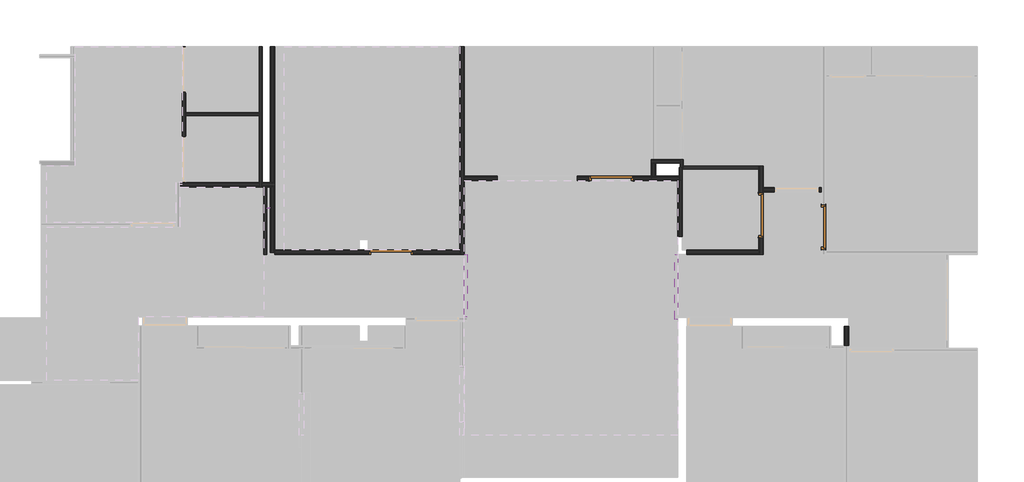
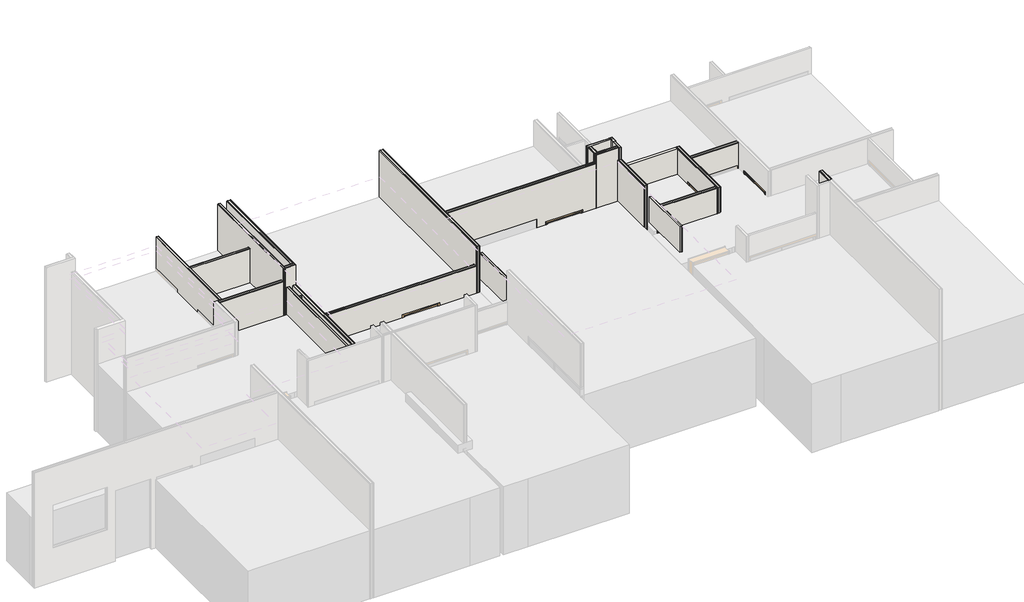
# One storey, part 3 of 6: 25 walls, 4 doors.
"""IFC4 building model written with IfcOpenShell, lengths in millimetres."""

from ifc_helpers import new_model, si_unit, frame, origin, origin_with_axes, place, context, project, spatial, polyline, outline, extrude, transform, mapped, element, save
from components import door_922e83f1, door_a5923646

model = new_model("IFC4")

# Units and contexts
model_context = context("Model", 3, world=origin())
ifc_project = project(units=[si_unit("LENGTHUNIT", "METRE", prefix="MILLI")], contexts=[model_context])

# Site, building, storey
site = spatial("IfcSite", under=ifc_project)
building = spatial("IfcBuilding", under=site)
storey = spatial("IfcBuildingStorey", under=building, Name="0 Mairie RDC 0.00", Elevation=0.0)

# Doors
placement = place(None, origin())
door_shape = door_922e83f1(model_context)
element("IfcDoor", 1, ObjectType="Portes - Int. Simple - PP (0.89m x 2.04m) (1)", at=placement, inside=storey, context=model_context, shape_type="MappedRepresentation", body=[
    mapped(door_shape, transform((-1617.7552543, -6588.7824715, 0.0), x_axis=(0.0, 1.0, 0.0), y_axis=(-1.0, 0.0, 0.0), z_axis=(0.0, 0.0, 1.0))),
])
element("IfcDoor", 2, ObjectType="Portes - Int. Simple - PP (0.89m x 2.04m) (1)", at=placement, inside=storey, context=model_context, shape_type="MappedRepresentation", body=[
    mapped(door_shape, transform((-5847.4166831, -4878.2154166, 0.0), x_axis=(-1.0, 0.0, 0.0), y_axis=(0.0, -1.0, 0.0), z_axis=(0.0, 0.0, 1.0))),
])
door_2_shape = door_a5923646(model_context)
element("IfcDoor", 3, ObjectType="Portes - Int. Simple - PP (0.89m x 2.04m) (2)", at=placement, inside=storey, context=model_context, shape_type="MappedRepresentation", body=[
    mapped(door_2_shape, transform((-3018.9176162, -6252.6533676, 0.0), x_axis=(0.0, 1.0, 0.0), y_axis=(-1.0, 0.0, 0.0), z_axis=(0.0, 0.0, 1.0))),
])
element("IfcDoor", 4, ObjectType="Portes - Int. Simple - PP (0.89m x 2.04m) (2)", at=placement, inside=storey, context=model_context, shape_type="MappedRepresentation", body=[
    mapped(door_2_shape, transform((-10848.5461708, -6532.5340392, 0.0), x_axis=(-1.0, 0.0, 0.0), y_axis=(0.0, -1.0, 0.0), z_axis=(0.0, 0.0, 1.0))),
])

# Walls
element("IfcWall", 5, ObjectType="Murs - Mur de base - A cloison placostil 98 sèche", at=placement, inside=storey, context=model_context, shape_type="SweptSolid", body=[
    extrude(outline(polyline([(-9808.4471465, -6632.5340392), (-9808.4471465, -1972.7637486), (-9795.9471465, -1972.7637486), (-9795.9471465, -6632.5340392), (-9808.4471465, -6632.5340392)])), origin_with_axes(), (0.0, 0.0, 1.0), 3370.0),
    extrude(outline(polyline([(-9795.9471465, -6632.5340392), (-9795.9471465, -1972.7637486), (-9783.4471465, -1972.7637486), (-9783.4471465, -6632.5340392), (-9795.9471465, -6632.5340392)])), origin_with_axes(), (0.0, 0.0, 1.0), 3370.0),
    extrude(outline(polyline([(-9783.4471465, -6632.5340392), (-9783.4471465, -1972.7637486), (-9733.4471465, -1972.7637486), (-9733.4471465, -6632.5340392), (-9783.4471465, -6632.5340392)])), origin_with_axes(), (0.0, 0.0, 1.0), 3370.0),
    extrude(outline(polyline([(-9733.4471465, -6632.5340392), (-9733.4471465, -1972.7637486), (-9720.9471465, -1972.7637486), (-9720.9471465, -6632.5340392), (-9733.4471465, -6632.5340392)])), origin_with_axes(), (0.0, 0.0, 1.0), 3370.0),
    extrude(outline(polyline([(-9720.9471465, -6632.5340392), (-9720.9471465, -1972.7637486), (-9708.4471465, -1972.7637486), (-9708.4471465, -6632.5340392), (-9720.9471465, -6632.5340392)])), origin_with_axes(), (0.0, 0.0, 1.0), 3370.0),
])
element("IfcWall", 6, ObjectType="Murs - Mur de base - A cloison placostil 72 sèche", at=placement, inside=storey, context=model_context, shape_type="SweptSolid", body=[
    extrude(outline(polyline([(-5527.496701, -4510.805772), (-4877.4967035, -4510.805772), (-4877.4967035, -4520.805772), (-5527.496701, -4520.805772), (-5527.496701, -4510.805772)])), origin_with_axes(), (0.0, 0.0, 1.0), 3550.0),
    extrude(outline(polyline([(-5527.496701, -4520.805772), (-4877.4967035, -4520.805772), (-4877.4967035, -4570.805772), (-5527.496701, -4570.805772), (-5527.496701, -4520.805772)])), origin_with_axes(), (0.0, 0.0, 1.0), 3550.0),
    extrude(outline(polyline([(-5527.496701, -4570.805772), (-4877.4967035, -4570.805772), (-4877.4967035, -4580.805772), (-5527.496701, -4580.805772), (-5527.496701, -4570.805772)])), origin_with_axes(), (0.0, 0.0, 1.0), 3550.0),
])
element("IfcWall", 7, ObjectType="Murs - Mur de base - A cloison placostil 72 sèche", at=placement, inside=storey, context=model_context, shape_type="SweptSolid", body=[
    extrude(outline(polyline([(-3118.9176162, -4722.7868397), (-4827.496702, -4722.7868397), (-4827.496702, -4687.7868397), (-4807.4967035, -4687.7868397), (-4807.4967035, -4652.7868397), (-3118.9176162, -4652.7868397), (-3118.9176162, -4722.7868397)])), origin_with_axes(), (0.0, 0.0, 1.0), 2750.0),
])
element("IfcWall", 8, ObjectType="Murs - Mur de base - A cloison placostil 98 sèche", at=placement, inside=storey, context=model_context, shape_type="SweptSolid", body=[
    extrude(outline(polyline([(-6633.7824715, 2750.0), (-4652.7868397, 2750.0), (-4652.7868397, 0.0), (-5252.6533676, 0.0), (-5252.6533676, 2075.0), (-6252.6533676, 2075.0), (-6252.6533676, 0.0), (-6633.7824715, 0.0), (-6633.7824715, 2750.0)])), frame((-3118.9176162, 0.0, 0.0), z_axis=(1.0, 0.0, 0.0), x_axis=(0.0, 1.0, 0.0)), (0.0, 0.0, 1.0), 12.5),
    extrude(outline(polyline([(-6633.7824715, 2750.0), (-4652.7868397, 2750.0), (-4652.7868397, 0.0), (-5252.6533676, 0.0), (-5252.6533676, 2075.0), (-6252.6533676, 2075.0), (-6252.6533676, 0.0), (-6633.7824715, 0.0), (-6633.7824715, 2750.0)])), frame((-3106.4176162, 0.0, 0.0), z_axis=(1.0, 0.0, 0.0), x_axis=(0.0, 1.0, 0.0)), (0.0, 0.0, 1.0), 12.5),
    extrude(outline(polyline([(-6633.7824715, 2750.0), (-4652.7868397, 2750.0), (-4652.7868397, 0.0), (-5252.6533676, 0.0), (-5252.6533676, 2075.0), (-6252.6533676, 2075.0), (-6252.6533676, 0.0), (-6633.7824715, 0.0), (-6633.7824715, 2750.0)])), frame((-3093.9176162, 0.0, 0.0), z_axis=(1.0, 0.0, 0.0), x_axis=(0.0, 1.0, 0.0)), (0.0, 0.0, 1.0), 50.0),
    extrude(outline(polyline([(-6633.7824715, 2750.0), (-4652.7868397, 2750.0), (-4652.7868397, 0.0), (-5252.6533676, 0.0), (-5252.6533676, 2075.0), (-6252.6533676, 2075.0), (-6252.6533676, 0.0), (-6633.7824715, 0.0), (-6633.7824715, 2750.0)])), frame((-3043.9176162, 0.0, 0.0), z_axis=(1.0, 0.0, 0.0), x_axis=(0.0, 1.0, 0.0)), (0.0, 0.0, 1.0), 12.5),
    extrude(outline(polyline([(-6633.7824715, 2750.0), (-4652.7868397, 2750.0), (-4652.7868397, 0.0), (-5252.6533676, 0.0), (-5252.6533676, 2075.0), (-6252.6533676, 2075.0), (-6252.6533676, 0.0), (-6633.7824715, 0.0), (-6633.7824715, 2750.0)])), frame((-3031.4176162, 0.0, 0.0), z_axis=(1.0, 0.0, 0.0), x_axis=(0.0, 1.0, 0.0)), (0.0, 0.0, 1.0), 12.5),
])
element("IfcWall", 9, ObjectType="Murs - Mur de base - A cloison placostil 98 sèche", at=placement, inside=storey, context=model_context, shape_type="SweptSolid", body=[
    extrude(outline(polyline([(-4726.8279653, -6633.7824715), (-4726.8279653, -6621.2824715), (-3118.9176162, -6621.2824715), (-3118.9176162, -6633.7824715), (-4726.8279653, -6633.7824715)])), origin_with_axes(), (0.0, 0.0, 1.0), 2750.0),
    extrude(outline(polyline([(-4726.8279653, -6621.2824715), (-4726.8279653, -6608.7824715), (-3118.9176162, -6608.7824715), (-3118.9176162, -6621.2824715), (-4726.8279653, -6621.2824715)])), origin_with_axes(), (0.0, 0.0, 1.0), 2750.0),
    extrude(outline(polyline([(-4726.8279653, -6608.7824715), (-4726.8279653, -6558.7824715), (-3118.9176162, -6558.7824715), (-3118.9176162, -6608.7824715), (-4726.8279653, -6608.7824715)])), origin_with_axes(), (0.0, 0.0, 1.0), 2750.0),
    extrude(outline(polyline([(-4726.8279653, -6558.7824715), (-4726.8279653, -6546.2824715), (-3118.9176162, -6546.2824715), (-3118.9176162, -6558.7824715), (-4726.8279653, -6558.7824715)])), origin_with_axes(), (0.0, 0.0, 1.0), 2750.0),
    extrude(outline(polyline([(-4726.8279653, -6546.2824715), (-4726.8279653, -6533.7824715), (-3118.9176162, -6533.7824715), (-3118.9176162, -6546.2824715), (-4726.8279653, -6546.2824715)])), origin_with_axes(), (0.0, 0.0, 1.0), 2750.0),
])
element("IfcWall", 10, ObjectType="Murs - Mur de base - A cloison placostil 98 sèche", at=placement, inside=storey, context=model_context, shape_type="SweptSolid", body=[
    extrude(outline(polyline([(2750.0, -1717.7552543), (2750.0, -3018.9176162), (0.0, -3018.9176162), (0.0, -2767.7552543), (2075.0, -2767.7552543), (2075.0, -1767.7552543), (0.0, -1767.7552543), (0.0, -1717.7552543), (2750.0, -1717.7552543)])), frame((0.0, -5237.6533676, 0.0), z_axis=(0.0, 1.0, 0.0), x_axis=(0.0, 0.0, 1.0)), (0.0, 0.0, 1.0), 12.5),
    extrude(outline(polyline([(2750.0, -1717.7552543), (2750.0, -3018.9176162), (0.0, -3018.9176162), (0.0, -2767.7552543), (2075.0, -2767.7552543), (2075.0, -1767.7552543), (0.0, -1767.7552543), (0.0, -1717.7552543), (2750.0, -1717.7552543)])), frame((0.0, -5225.1533676, 0.0), z_axis=(0.0, 1.0, 0.0), x_axis=(0.0, 0.0, 1.0)), (0.0, 0.0, 1.0), 12.5),
    extrude(outline(polyline([(2750.0, -1717.7552543), (2750.0, -3018.9176162), (0.0, -3018.9176162), (0.0, -2767.7552543), (2075.0, -2767.7552543), (2075.0, -1767.7552543), (0.0, -1767.7552543), (0.0, -1717.7552543), (2750.0, -1717.7552543)])), frame((0.0, -5212.6533676, 0.0), z_axis=(0.0, 1.0, 0.0), x_axis=(0.0, 0.0, 1.0)), (0.0, 0.0, 1.0), 50.0),
    extrude(outline(polyline([(2750.0, -1717.7552543), (2750.0, -3018.9176162), (0.0, -3018.9176162), (0.0, -2767.7552543), (2075.0, -2767.7552543), (2075.0, -1767.7552543), (0.0, -1767.7552543), (0.0, -1717.7552543), (2750.0, -1717.7552543)])), frame((0.0, -5162.6533676, 0.0), z_axis=(0.0, 1.0, 0.0), x_axis=(0.0, 0.0, 1.0)), (0.0, 0.0, 1.0), 12.5),
    extrude(outline(polyline([(2750.0, -1717.7552543), (2750.0, -3018.9176162), (0.0, -3018.9176162), (0.0, -2767.7552543), (2075.0, -2767.7552543), (2075.0, -1767.7552543), (0.0, -1767.7552543), (0.0, -1717.7552543), (2750.0, -1717.7552543)])), frame((0.0, -5150.1533676, 0.0), z_axis=(0.0, 1.0, 0.0), x_axis=(0.0, 0.0, 1.0)), (0.0, 0.0, 1.0), 12.5),
])
element("IfcWall", 11, ObjectType="Murs - Mur de base - A cloison placostil 98 sèche", at=placement, inside=storey, context=model_context, shape_type="SweptSolid", body=[
    extrude(outline(polyline([(2800.0, -9808.4471465), (2800.0, -13946.7760862), (0.0, -13946.7760862), (0.0, -11848.5461708), (2075.0, -11848.5461708), (2075.0, -10848.5461708), (0.0, -10848.5461708), (0.0, -9808.4471465), (2800.0, -9808.4471465)])), frame((0.0, -6632.5340392, 0.0), z_axis=(0.0, 1.0, 0.0), x_axis=(0.0, 0.0, 1.0)), (0.0, 0.0, 1.0), 12.5),
    extrude(outline(polyline([(2800.0, -9808.4471465), (2800.0, -13946.7760862), (0.0, -13946.7760862), (0.0, -11848.5461708), (2075.0, -11848.5461708), (2075.0, -10848.5461708), (0.0, -10848.5461708), (0.0, -9808.4471465), (2800.0, -9808.4471465)])), frame((0.0, -6620.0340392, 0.0), z_axis=(0.0, 1.0, 0.0), x_axis=(0.0, 0.0, 1.0)), (0.0, 0.0, 1.0), 12.5),
    extrude(outline(polyline([(2800.0, -9808.4471465), (2800.0, -13946.7760862), (0.0, -13946.7760862), (0.0, -11848.5461708), (2075.0, -11848.5461708), (2075.0, -10848.5461708), (0.0, -10848.5461708), (0.0, -9808.4471465), (2800.0, -9808.4471465)])), frame((0.0, -6607.5340392, 0.0), z_axis=(0.0, 1.0, 0.0), x_axis=(0.0, 0.0, 1.0)), (0.0, 0.0, 1.0), 50.0),
    extrude(outline(polyline([(2800.0, -9808.4471465), (2800.0, -13946.7760862), (0.0, -13946.7760862), (0.0, -11848.5461708), (2075.0, -11848.5461708), (2075.0, -10848.5461708), (0.0, -10848.5461708), (0.0, -9808.4471465), (2800.0, -9808.4471465)])), frame((0.0, -6557.5340392, 0.0), z_axis=(0.0, 1.0, 0.0), x_axis=(0.0, 0.0, 1.0)), (0.0, 0.0, 1.0), 12.5),
    extrude(outline(polyline([(2800.0, -9808.4471465), (2800.0, -13946.7760862), (0.0, -13946.7760862), (0.0, -11848.5461708), (2075.0, -11848.5461708), (2075.0, -10848.5461708), (0.0, -10848.5461708), (0.0, -9808.4471465), (2800.0, -9808.4471465)])), frame((0.0, -6545.0340392, 0.0), z_axis=(0.0, 1.0, 0.0), x_axis=(0.0, 0.0, 1.0)), (0.0, 0.0, 1.0), 12.5),
])
element("IfcWall", 12, ObjectType="Murs - Mur de base - A cloison placostil 98 sèche", at=placement, inside=storey, context=model_context, shape_type="SweptSolid", body=[
    extrude(outline(polyline([(3300.0, -5527.496701), (3300.0, -9708.4471465), (0.0, -9708.4471465), (0.0, -6917.4166831), (2075.0, -6917.4166831), (2075.0, -5917.4166831), (0.0, -5917.4166831), (0.0, -5527.496701), (3300.0, -5527.496701)]), holes=[polyline([(2250.0, -7174.496701), (1000.0, -7174.496701), (1000.0, -8974.496701), (2250.0, -8974.496701), (2250.0, -7174.496701)])]), frame((0.0, -4978.2154166, 0.0), z_axis=(0.0, 1.0, 0.0), x_axis=(0.0, 0.0, 1.0)), (0.0, 0.0, 1.0), 12.5),
    extrude(outline(polyline([(3300.0, -5527.496701), (3300.0, -9708.4471465), (0.0, -9708.4471465), (0.0, -6917.4166831), (2075.0, -6917.4166831), (2075.0, -5917.4166831), (0.0, -5917.4166831), (0.0, -5527.496701), (3300.0, -5527.496701)]), holes=[polyline([(2250.0, -7174.496701), (1000.0, -7174.496701), (1000.0, -8974.496701), (2250.0, -8974.496701), (2250.0, -7174.496701)])]), frame((0.0, -4965.7154166, 0.0), z_axis=(0.0, 1.0, 0.0), x_axis=(0.0, 0.0, 1.0)), (0.0, 0.0, 1.0), 12.5),
    extrude(outline(polyline([(3300.0, -5527.496701), (3300.0, -9708.4471465), (0.0, -9708.4471465), (0.0, -6917.4166831), (2075.0, -6917.4166831), (2075.0, -5917.4166831), (0.0, -5917.4166831), (0.0, -5527.496701), (3300.0, -5527.496701)]), holes=[polyline([(2250.0, -7174.496701), (1000.0, -7174.496701), (1000.0, -8974.496701), (2250.0, -8974.496701), (2250.0, -7174.496701)])]), frame((0.0, -4953.2154166, 0.0), z_axis=(0.0, 1.0, 0.0), x_axis=(0.0, 0.0, 1.0)), (0.0, 0.0, 1.0), 50.0),
    extrude(outline(polyline([(3300.0, -5527.496701), (3300.0, -9708.4471465), (0.0, -9708.4471465), (0.0, -6917.4166831), (2075.0, -6917.4166831), (2075.0, -5917.4166831), (0.0, -5917.4166831), (0.0, -5527.496701), (3300.0, -5527.496701)]), holes=[polyline([(2250.0, -7174.496701), (1000.0, -7174.496701), (1000.0, -8974.496701), (2250.0, -8974.496701), (2250.0, -7174.496701)])]), frame((0.0, -4903.2154166, 0.0), z_axis=(0.0, 1.0, 0.0), x_axis=(0.0, 0.0, 1.0)), (0.0, 0.0, 1.0), 12.5),
    extrude(outline(polyline([(3300.0, -5527.496701), (3300.0, -9708.4471465), (0.0, -9708.4471465), (0.0, -6917.4166831), (2075.0, -6917.4166831), (2075.0, -5917.4166831), (0.0, -5917.4166831), (0.0, -5527.496701), (3300.0, -5527.496701)]), holes=[polyline([(2250.0, -7174.496701), (1000.0, -7174.496701), (1000.0, -8974.496701), (2250.0, -8974.496701), (2250.0, -7174.496701)])]), frame((0.0, -4890.7154166, 0.0), z_axis=(0.0, 1.0, 0.0), x_axis=(0.0, 0.0, 1.0)), (0.0, 0.0, 1.0), 12.5),
])
element("IfcWall", 13, ObjectType="Murs - Mur de base - A cloison placostil 72 sèche", at=placement, inside=storey, context=model_context, shape_type="SweptSolid", body=[
    extrude(outline(polyline([(-4897.496702, -4978.2154166), (-4897.496702, -4687.7868397), (-4887.496702, -4687.7868397), (-4887.496702, -4978.2154166), (-4897.496702, -4978.2154166)])), origin_with_axes(), (0.0, 0.0, 1.0), 3550.0),
    extrude(outline(polyline([(-4887.496702, -4978.2154166), (-4887.496702, -4687.7868397), (-4837.496702, -4687.7868397), (-4837.496702, -4978.2154166), (-4887.496702, -4978.2154166)])), origin_with_axes(), (0.0, 0.0, 1.0), 3550.0),
    extrude(outline(polyline([(-4837.496702, -4978.2154166), (-4837.496702, -4687.7868397), (-4827.496702, -4687.7868397), (-4827.496702, -4978.2154166), (-4837.496702, -4978.2154166)])), origin_with_axes(), (0.0, 0.0, 1.0), 3550.0),
])
element("IfcWall", 14, ObjectType="Murs - Mur de base - A cloison placostil 98 sèche", at=placement, inside=storey, context=model_context, shape_type="SweptSolid", body=[
    extrude(outline(polyline([(-4927.496702, -6233.7824715), (-4927.496702, -4978.2154166), (-4914.996702, -4978.2154166), (-4914.996702, -6233.7824715), (-4927.496702, -6233.7824715)])), origin_with_axes(), (0.0, 0.0, 1.0), 3200.0),
    extrude(outline(polyline([(-4914.996702, -6233.7824715), (-4914.996702, -4978.2154166), (-4902.496702, -4978.2154166), (-4902.496702, -6233.7824715), (-4914.996702, -6233.7824715)])), origin_with_axes(), (0.0, 0.0, 1.0), 3200.0),
    extrude(outline(polyline([(-4902.496702, -6233.7824715), (-4902.496702, -4978.2154166), (-4852.496702, -4978.2154166), (-4852.496702, -6233.7824715), (-4902.496702, -6233.7824715)])), origin_with_axes(), (0.0, 0.0, 1.0), 3200.0),
    extrude(outline(polyline([(-4852.496702, -6233.7824715), (-4852.496702, -4978.2154166), (-4839.996702, -4978.2154166), (-4839.996702, -6233.7824715), (-4852.496702, -6233.7824715)])), origin_with_axes(), (0.0, 0.0, 1.0), 3200.0),
    extrude(outline(polyline([(-4839.996702, -6233.7824715), (-4839.996702, -4978.2154166), (-4827.496702, -4978.2154166), (-4827.496702, -6233.7824715), (-4839.996702, -6233.7824715)])), origin_with_axes(), (0.0, 0.0, 1.0), 3200.0),
])
element("IfcWall", 15, ObjectType="Murs - Mur de base - A cloison placostil 72 sèche", at=placement, inside=storey, context=model_context, shape_type="SweptSolid", body=[
    extrude(outline(polyline([(-9638.4471465, -8032.7867091), (-9648.4471465, -8032.7867091), (-9648.4471465, -6633.2685444), (-9638.4471465, -6633.2685444), (-9638.4471465, -8032.7867091)])), frame((0.0, 0.0, 2400.0), z_axis=(0.0, 0.0, 1.0), x_axis=(1.0, 0.0, 0.0)), (0.0, 0.0, 1.0), 750.0),
    extrude(outline(polyline([(-9648.4471465, -8032.7867091), (-9698.4471465, -8032.7867091), (-9698.4471465, -6633.2685444), (-9648.4471465, -6633.2685444), (-9648.4471465, -8032.7867091)])), frame((0.0, 0.0, 2400.0), z_axis=(0.0, 0.0, 1.0), x_axis=(1.0, 0.0, 0.0)), (0.0, 0.0, 1.0), 750.0),
    extrude(outline(polyline([(-9698.4471465, -8032.7867091), (-9708.4471465, -8032.7867091), (-9708.4471465, -6633.2685444), (-9698.4471465, -6633.2685444), (-9698.4471465, -8032.7867091)])), frame((0.0, 0.0, 2400.0), z_axis=(0.0, 0.0, 1.0), x_axis=(1.0, 0.0, 0.0)), (0.0, 0.0, 1.0), 750.0),
])
element("IfcWall", 16, ObjectType="Murs - Mur de base - A cloison placostil 72 sèche", at=placement, inside=storey, context=model_context, shape_type="SweptSolid", body=[
    extrude(outline(polyline([(-4927.496702, -8082.7867091), (-4937.496702, -8082.7867091), (-4937.496702, -6633.2685444), (-4927.496702, -6633.2685444), (-4927.496702, -8082.7867091)])), frame((0.0, 0.0, 2400.0), z_axis=(0.0, 0.0, 1.0), x_axis=(1.0, 0.0, 0.0)), (0.0, 0.0, 1.0), 750.0),
    extrude(outline(polyline([(-4937.496702, -8082.7867091), (-4987.496702, -8082.7867091), (-4987.496702, -6633.2685444), (-4937.496702, -6633.2685444), (-4937.496702, -8082.7867091)])), frame((0.0, 0.0, 2400.0), z_axis=(0.0, 0.0, 1.0), x_axis=(1.0, 0.0, 0.0)), (0.0, 0.0, 1.0), 750.0),
    extrude(outline(polyline([(-4987.496702, -8082.7867091), (-4997.496702, -8082.7867091), (-4997.496702, -6633.2685444), (-4987.496702, -6633.2685444), (-4987.496702, -8082.7867091)])), frame((0.0, 0.0, 2400.0), z_axis=(0.0, 0.0, 1.0), x_axis=(1.0, 0.0, 0.0)), (0.0, 0.0, 1.0), 750.0),
])
element("IfcWall", 17, ObjectType="Murs - Mur de base - A cloison placostil 98 sèche", at=placement, inside=storey, context=model_context, shape_type="SweptSolid", body=[
    extrude(outline(polyline([(-1206.3922233, -8681.7570094), (-1206.3922233, -8238.2685444), (-1193.8922233, -8238.2685444), (-1193.8922233, -8681.7570094), (-1206.3922233, -8681.7570094)])), origin_with_axes(), (0.0, 0.0, 1.0), 3550.0),
    extrude(outline(polyline([(-1193.8922233, -8681.7570094), (-1193.8922233, -8238.2685444), (-1181.3922233, -8238.2685444), (-1181.3922233, -8681.7570094), (-1193.8922233, -8681.7570094)])), origin_with_axes(), (0.0, 0.0, 1.0), 3550.0),
    extrude(outline(polyline([(-1181.3922233, -8681.7570094), (-1181.3922233, -8238.2685444), (-1131.3922233, -8238.2685444), (-1131.3922233, -8681.7570094), (-1181.3922233, -8681.7570094)])), origin_with_axes(), (0.0, 0.0, 1.0), 3550.0),
    extrude(outline(polyline([(-1131.3922233, -8681.7570094), (-1131.3922233, -8238.2685444), (-1118.8922233, -8238.2685444), (-1118.8922233, -8681.7570094), (-1131.3922233, -8681.7570094)])), origin_with_axes(), (0.0, 0.0, 1.0), 3550.0),
    extrude(outline(polyline([(-1118.8922233, -8681.7570094), (-1118.8922233, -8238.2685444), (-1106.3922233, -8238.2685444), (-1106.3922233, -8681.7570094), (-1118.8922233, -8681.7570094)])), origin_with_axes(), (0.0, 0.0, 1.0), 3550.0),
])
element("IfcWall", 18, ObjectType="Murs - Mur de base - A cloison placostil 98 sèche", at=placement, inside=storey, context=model_context, shape_type="SweptSolid", body=[
    extrude(outline(polyline([(-14296.7760862, -5119.9219201), (-16066.6269046, -5119.9219201), (-16066.6269046, -5107.4219201), (-14296.7760862, -5107.4219201), (-14296.7760862, -5119.9219201)])), origin_with_axes(), (0.0, 0.0, 1.0), 3000.0),
    extrude(outline(polyline([(-14296.7760862, -5107.4219201), (-16066.6269046, -5107.4219201), (-16066.6269046, -5094.9219201), (-14296.7760862, -5094.9219201), (-14296.7760862, -5107.4219201)])), origin_with_axes(), (0.0, 0.0, 1.0), 3000.0),
    extrude(outline(polyline([(-14296.7760862, -5094.9219201), (-16066.6269046, -5094.9219201), (-16066.6269046, -5044.9219201), (-14296.7760862, -5044.9219201), (-14296.7760862, -5094.9219201)])), origin_with_axes(), (0.0, 0.0, 1.0), 3000.0),
    extrude(outline(polyline([(-14296.7760862, -5044.9219201), (-16066.6269046, -5044.9219201), (-16066.6269046, -5032.4219201), (-14296.7760862, -5032.4219201), (-14296.7760862, -5044.9219201)])), origin_with_axes(), (0.0, 0.0, 1.0), 3000.0),
    extrude(outline(polyline([(-14296.7760862, -5032.4219201), (-16066.6269046, -5032.4219201), (-16066.6269046, -5019.9219201), (-14296.7760862, -5019.9219201), (-14296.7760862, -5032.4219201)])), origin_with_axes(), (0.0, 0.0, 1.0), 3000.0),
])
element("IfcWall", 19, ObjectType="Murs - Mur de base - A cloison placostil 72 sèche", at=placement, inside=storey, context=model_context, shape_type="SweptSolid", body=[
    extrude(outline(polyline([(-14226.7760862, -1972.7637486), (-14226.7760862, -5119.9219201), (-14236.7760862, -5119.9219201), (-14236.7760862, -1972.7637486), (-14226.7760862, -1972.7637486)])), origin_with_axes(), (0.0, 0.0, 1.0), 3370.0),
    extrude(outline(polyline([(-14236.7760862, -1972.7637486), (-14236.7760862, -5119.9219201), (-14286.7760862, -5119.9219201), (-14286.7760862, -1972.7637486), (-14236.7760862, -1972.7637486)])), origin_with_axes(), (0.0, 0.0, 1.0), 3370.0),
    extrude(outline(polyline([(-14286.7760862, -1972.7637486), (-14286.7760862, -5119.9219201), (-14296.7760862, -5119.9219201), (-14296.7760862, -1972.7637486), (-14286.7760862, -1972.7637486)])), origin_with_axes(), (0.0, 0.0, 1.0), 3370.0),
])
element("IfcWall", 20, ObjectType="Murs - Mur de base - A cloison placostil 72 sèche", at=placement, inside=storey, context=model_context, shape_type="SweptSolid", body=[
    extrude(outline(polyline([(-5019.9219201, 3000.0), (-1972.7637486, 3000.0), (-1972.7637486, 0.0), (-1987.7637486, 0.0), (-1987.7637486, 2075.0), (-2987.7637486, 2075.0), (-2987.7637486, 0.0), (-4004.9219201, 0.0), (-4004.9219201, 2075.0), (-5004.9219201, 2075.0), (-5004.9219201, 0.0), (-5019.9219201, 0.0), (-5019.9219201, 3000.0)])), frame((-15955.9503686, 0.0, 0.0), z_axis=(1.0, 0.0, 0.0), x_axis=(0.0, 1.0, 0.0)), (0.0, 0.0, 1.0), 10.0),
    extrude(outline(polyline([(-5019.9219201, 3000.0), (-1972.7637486, 3000.0), (-1972.7637486, 0.0), (-1987.7637486, 0.0), (-1987.7637486, 2075.0), (-2987.7637486, 2075.0), (-2987.7637486, 0.0), (-4004.9219201, 0.0), (-4004.9219201, 2075.0), (-5004.9219201, 2075.0), (-5004.9219201, 0.0), (-5019.9219201, 0.0), (-5019.9219201, 3000.0)])), frame((-16005.9503686, 0.0, 0.0), z_axis=(1.0, 0.0, 0.0), x_axis=(0.0, 1.0, 0.0)), (0.0, 0.0, 1.0), 50.0),
    extrude(outline(polyline([(-5019.9219201, 3000.0), (-1972.7637486, 3000.0), (-1972.7637486, 0.0), (-1987.7637486, 0.0), (-1987.7637486, 2075.0), (-2987.7637486, 2075.0), (-2987.7637486, 0.0), (-4004.9219201, 0.0), (-4004.9219201, 2075.0), (-5004.9219201, 2075.0), (-5004.9219201, 0.0), (-5019.9219201, 0.0), (-5019.9219201, 3000.0)])), frame((-16015.9503686, 0.0, 0.0), z_axis=(1.0, 0.0, 0.0), x_axis=(0.0, 1.0, 0.0)), (0.0, 0.0, 1.0), 10.0),
])
element("IfcWall", 21, ObjectType="Murs - Mur de base - A cloison placostil 72 sèche", at=placement, inside=storey, context=model_context, shape_type="SweptSolid", body=[
    extrude(outline(polyline([(-15945.9503686, -3451.3428344), (-14296.7760862, -3451.3428344), (-14296.7760862, -3461.3428344), (-15945.9503686, -3461.3428344), (-15945.9503686, -3451.3428344)])), origin_with_axes(), (0.0, 0.0, 1.0), 3000.0),
    extrude(outline(polyline([(-15945.9503686, -3461.3428344), (-14296.7760862, -3461.3428344), (-14296.7760862, -3511.3428344), (-15945.9503686, -3511.3428344), (-15945.9503686, -3461.3428344)])), origin_with_axes(), (0.0, 0.0, 1.0), 3000.0),
    extrude(outline(polyline([(-15945.9503686, -3511.3428344), (-14296.7760862, -3511.3428344), (-14296.7760862, -3521.3428344), (-15945.9503686, -3521.3428344), (-15945.9503686, -3511.3428344)])), origin_with_axes(), (0.0, 0.0, 1.0), 3000.0),
])
element("IfcWall", 22, ObjectType="Murs - Mur de base - A cloison placostil 98 sèche", at=placement, inside=storey, context=model_context, shape_type="SweptSolid", body=[
    extrude(outline(polyline([(-5527.496701, -4878.2154166), (-5527.496701, -4580.805772), (-5514.996701, -4580.805772), (-5514.996701, -4878.2154166), (-5527.496701, -4878.2154166)])), origin_with_axes(), (0.0, 0.0, 1.0), 3550.0),
    extrude(outline(polyline([(-5514.996701, -4878.2154166), (-5514.996701, -4580.805772), (-5502.496701, -4580.805772), (-5502.496701, -4878.2154166), (-5514.996701, -4878.2154166)])), origin_with_axes(), (0.0, 0.0, 1.0), 3550.0),
    extrude(outline(polyline([(-5502.496701, -4878.2154166), (-5502.496701, -4580.805772), (-5452.496701, -4580.805772), (-5452.496701, -4878.2154166), (-5502.496701, -4878.2154166)])), origin_with_axes(), (0.0, 0.0, 1.0), 3550.0),
    extrude(outline(polyline([(-5452.496701, -4878.2154166), (-5452.496701, -4580.805772), (-5439.996701, -4580.805772), (-5439.996701, -4878.2154166), (-5452.496701, -4878.2154166)])), origin_with_axes(), (0.0, 0.0, 1.0), 3550.0),
    extrude(outline(polyline([(-5439.996701, -4878.2154166), (-5439.996701, -4580.805772), (-5427.496701, -4580.805772), (-5427.496701, -4878.2154166), (-5439.996701, -4878.2154166)])), origin_with_axes(), (0.0, 0.0, 1.0), 3550.0),
])
element("IfcWall", 23, ObjectType="Murs - Mur de base - A cloison placostil 72 sèche", at=placement, inside=storey, context=model_context, shape_type="SweptSolid", body=[
    extrude(outline(polyline([(-8032.7867091, 2800.0), (-5119.9219201, 2800.0), (-5119.9219201, 0.0), (-6633.7824715, 0.0), (-6633.7824715, 1320.0), (-8032.7867091, 1320.0), (-8032.7867091, 2800.0)])), frame((-14202.6238573, 0.0, 0.0), z_axis=(1.0, 0.0, 0.0), x_axis=(0.0, 1.0, 0.0)), (0.0, 0.0, 1.0), 10.0),
    extrude(outline(polyline([(-8032.7867091, 2800.0), (-5119.9219201, 2800.0), (-5119.9219201, 0.0), (-6633.7824715, 0.0), (-6633.7824715, 1320.0), (-8032.7867091, 1320.0), (-8032.7867091, 2800.0)])), frame((-14192.6238573, 0.0, 0.0), z_axis=(1.0, 0.0, 0.0), x_axis=(0.0, 1.0, 0.0)), (0.0, 0.0, 1.0), 50.0),
    extrude(outline(polyline([(-8032.7867091, 2800.0), (-5119.9219201, 2800.0), (-5119.9219201, 0.0), (-6633.7824715, 0.0), (-6633.7824715, 1320.0), (-8032.7867091, 1320.0), (-8032.7867091, 2800.0)])), frame((-14142.6238573, 0.0, 0.0), z_axis=(1.0, 0.0, 0.0), x_axis=(0.0, 1.0, 0.0)), (0.0, 0.0, 1.0), 10.0),
])
element("IfcWall", 24, ObjectType="Murs - Mur de base - A cloison placostil 72 sèche", at=placement, inside=storey, context=model_context, shape_type="SweptSolid", body=[
    extrude(outline(polyline([(-14124.6238573, -5594.5340392), (-14124.6238573, -5592.5340392), (-14114.6238573, -5592.5340392), (-14114.6238573, -5594.5340392), (-14124.6238573, -5594.5340392)])), frame((0.0, 0.0, 2120.0), z_axis=(0.0, 0.0, 1.0), x_axis=(1.0, 0.0, 0.0)), (0.0, 0.0, 1.0), 680.0),
    extrude(outline(polyline([(-14114.6238573, -5594.5340392), (-14114.6238573, -5592.5340392), (-14064.6238573, -5592.5340392), (-14064.6238573, -5594.5340392), (-14114.6238573, -5594.5340392)])), frame((0.0, 0.0, 2120.0), z_axis=(0.0, 0.0, 1.0), x_axis=(1.0, 0.0, 0.0)), (0.0, 0.0, 1.0), 680.0),
    extrude(outline(polyline([(-14064.6238573, -5594.5340392), (-14064.6238573, -5592.5340392), (-14054.6238573, -5592.5340392), (-14054.6238573, -5594.5340392), (-14064.6238573, -5594.5340392)])), frame((0.0, 0.0, 2120.0), z_axis=(0.0, 0.0, 1.0), x_axis=(1.0, 0.0, 0.0)), (0.0, 0.0, 1.0), 680.0),
])
element("IfcWall", 25, ObjectType="Murs - Mur de base - A cloison placostil 98 sèche", at=placement, inside=storey, context=model_context, shape_type="SweptSolid", body=[
    extrude(outline(polyline([(-13946.7760862, -1972.7637486), (-13946.7760862, -5019.9219201), (-13959.2760862, -5019.9219201), (-13959.2760862, -1972.7637486), (-13946.7760862, -1972.7637486)])), origin_with_axes(), (0.0, 0.0, 1.0), 3370.0),
    extrude(outline(polyline([(-13959.2760862, -1972.7637486), (-13959.2760862, -5019.9219201), (-13971.7760862, -5019.9219201), (-13971.7760862, -1972.7637486), (-13959.2760862, -1972.7637486)])), origin_with_axes(), (0.0, 0.0, 1.0), 3370.0),
    extrude(outline(polyline([(-13971.7760862, -1972.7637486), (-13971.7760862, -5019.9219201), (-14021.7760862, -5019.9219201), (-14021.7760862, -1972.7637486), (-13971.7760862, -1972.7637486)])), origin_with_axes(), (0.0, 0.0, 1.0), 3370.0),
    extrude(outline(polyline([(-14021.7760862, -1972.7637486), (-14021.7760862, -5019.9219201), (-14034.2760862, -5019.9219201), (-14034.2760862, -1972.7637486), (-14021.7760862, -1972.7637486)])), origin_with_axes(), (0.0, 0.0, 1.0), 3370.0),
    extrude(outline(polyline([(-14034.2760862, -1972.7637486), (-14034.2760862, -5019.9219201), (-14046.7760862, -5019.9219201), (-14046.7760862, -1972.7637486), (-14034.2760862, -1972.7637486)])), origin_with_axes(), (0.0, 0.0, 1.0), 3370.0),
])
element("IfcWall", 26, ObjectType="Murs - Mur de base - A cloison placostil 98 sèche", at=placement, inside=storey, context=model_context, shape_type="SweptSolid", body=[
    extrude(outline(polyline([(-8032.7867091, 2800.0), (-5119.9219201, 2800.0), (-5119.9219201, 0.0), (-6582.5340392, 0.0), (-6582.5340392, 2120.0), (-8032.7867091, 2120.0), (-8032.7867091, 2800.0)])), frame((-13959.2760862, 0.0, 0.0), z_axis=(1.0, 0.0, 0.0), x_axis=(0.0, 1.0, 0.0)), (0.0, 0.0, 1.0), 12.5),
    extrude(outline(polyline([(-8032.7867091, 2800.0), (-5119.9219201, 2800.0), (-5119.9219201, 0.0), (-6582.5340392, 0.0), (-6582.5340392, 2120.0), (-8032.7867091, 2120.0), (-8032.7867091, 2800.0)])), frame((-13971.7760862, 0.0, 0.0), z_axis=(1.0, 0.0, 0.0), x_axis=(0.0, 1.0, 0.0)), (0.0, 0.0, 1.0), 12.5),
    extrude(outline(polyline([(-8032.7867091, 2800.0), (-5119.9219201, 2800.0), (-5119.9219201, 0.0), (-6582.5340392, 0.0), (-6582.5340392, 2120.0), (-8032.7867091, 2120.0), (-8032.7867091, 2800.0)])), frame((-14021.7760862, 0.0, 0.0), z_axis=(1.0, 0.0, 0.0), x_axis=(0.0, 1.0, 0.0)), (0.0, 0.0, 1.0), 50.0),
    extrude(outline(polyline([(-8032.7867091, 2800.0), (-5119.9219201, 2800.0), (-5119.9219201, 0.0), (-6582.5340392, 0.0), (-6582.5340392, 2120.0), (-8032.7867091, 2120.0), (-8032.7867091, 2800.0)])), frame((-14034.2760862, 0.0, 0.0), z_axis=(1.0, 0.0, 0.0), x_axis=(0.0, 1.0, 0.0)), (0.0, 0.0, 1.0), 12.5),
    extrude(outline(polyline([(-8032.7867091, 2800.0), (-5119.9219201, 2800.0), (-5119.9219201, 0.0), (-6582.5340392, 0.0), (-6582.5340392, 2120.0), (-8032.7867091, 2120.0), (-8032.7867091, 2800.0)])), frame((-14046.7760862, 0.0, 0.0), z_axis=(1.0, 0.0, 0.0), x_axis=(0.0, 1.0, 0.0)), (0.0, 0.0, 1.0), 12.5),
])
element("IfcWall", 27, ObjectType="Murs - Mur de base - A cloison placostil 98 sèche", at=placement, inside=storey, context=model_context, shape_type="SweptSolid", body=[
    extrude(outline(polyline([(-14226.7760862, -5119.9219201), (-14226.7760862, -5107.4219201), (-13946.7760862, -5107.4219201), (-13946.7760862, -5119.9219201), (-14226.7760862, -5119.9219201)])), origin_with_axes(), (0.0, 0.0, 1.0), 3370.0),
    extrude(outline(polyline([(-14226.7760862, -5107.4219201), (-14226.7760862, -5094.9219201), (-13946.7760862, -5094.9219201), (-13946.7760862, -5107.4219201), (-14226.7760862, -5107.4219201)])), origin_with_axes(), (0.0, 0.0, 1.0), 3370.0),
    extrude(outline(polyline([(-14226.7760862, -5094.9219201), (-14226.7760862, -5044.9219201), (-13946.7760862, -5044.9219201), (-13946.7760862, -5094.9219201), (-14226.7760862, -5094.9219201)])), origin_with_axes(), (0.0, 0.0, 1.0), 3370.0),
    extrude(outline(polyline([(-14226.7760862, -5044.9219201), (-14226.7760862, -5032.4219201), (-13946.7760862, -5032.4219201), (-13946.7760862, -5044.9219201), (-14226.7760862, -5044.9219201)])), origin_with_axes(), (0.0, 0.0, 1.0), 3370.0),
    extrude(outline(polyline([(-14226.7760862, -5032.4219201), (-14226.7760862, -5019.9219201), (-13946.7760862, -5019.9219201), (-13946.7760862, -5032.4219201), (-14226.7760862, -5032.4219201)])), origin_with_axes(), (0.0, 0.0, 1.0), 3370.0),
])
element("IfcWall", 28, ObjectType="Murs - Mur de base - A cloison placostil 72 sèche", at=placement, inside=storey, context=model_context, shape_type="SweptSolid", body=[
    extrude(outline(polyline([(-4807.4967035, -4510.805772), (-4807.4967035, -4687.7868397), (-4817.4967035, -4687.7868397), (-4817.4967035, -4510.805772), (-4807.4967035, -4510.805772)])), origin_with_axes(), (0.0, 0.0, 1.0), 3550.0),
    extrude(outline(polyline([(-4817.4967035, -4510.805772), (-4817.4967035, -4687.7868397), (-4867.4967035, -4687.7868397), (-4867.4967035, -4510.805772), (-4817.4967035, -4510.805772)])), origin_with_axes(), (0.0, 0.0, 1.0), 3550.0),
    extrude(outline(polyline([(-4867.4967035, -4510.805772), (-4867.4967035, -4687.7868397), (-4877.4967035, -4687.7868397), (-4877.4967035, -4510.805772), (-4867.4967035, -4510.805772)])), origin_with_axes(), (0.0, 0.0, 1.0), 3550.0),
])
element("IfcWall", 29, ObjectType="Murs - Mur de base - A cloison placostil 98 sèche", at=placement, inside=storey, context=model_context, shape_type="SweptSolid", body=[
    extrude(outline(polyline([(-5527.496701, -4978.2154166), (-5527.496701, -4965.7154166), (-4897.496702, -4965.7154166), (-4897.496702, -4978.2154166), (-5527.496701, -4978.2154166)])), origin_with_axes(), (0.0, 0.0, 1.0), 3550.0),
    extrude(outline(polyline([(-5527.496701, -4965.7154166), (-5527.496701, -4953.2154166), (-4897.496702, -4953.2154166), (-4897.496702, -4965.7154166), (-5527.496701, -4965.7154166)])), origin_with_axes(), (0.0, 0.0, 1.0), 3550.0),
    extrude(outline(polyline([(-5527.496701, -4953.2154166), (-5527.496701, -4903.2154166), (-4897.496702, -4903.2154166), (-4897.496702, -4953.2154166), (-5527.496701, -4953.2154166)])), origin_with_axes(), (0.0, 0.0, 1.0), 3550.0),
    extrude(outline(polyline([(-5527.496701, -4903.2154166), (-5527.496701, -4890.7154166), (-4897.496702, -4890.7154166), (-4897.496702, -4903.2154166), (-5527.496701, -4903.2154166)])), origin_with_axes(), (0.0, 0.0, 1.0), 3550.0),
    extrude(outline(polyline([(-5527.496701, -4890.7154166), (-5527.496701, -4878.2154166), (-4897.496702, -4878.2154166), (-4897.496702, -4890.7154166), (-5527.496701, -4890.7154166)])), origin_with_axes(), (0.0, 0.0, 1.0), 3550.0),
])

save(model, "model.ifc")
